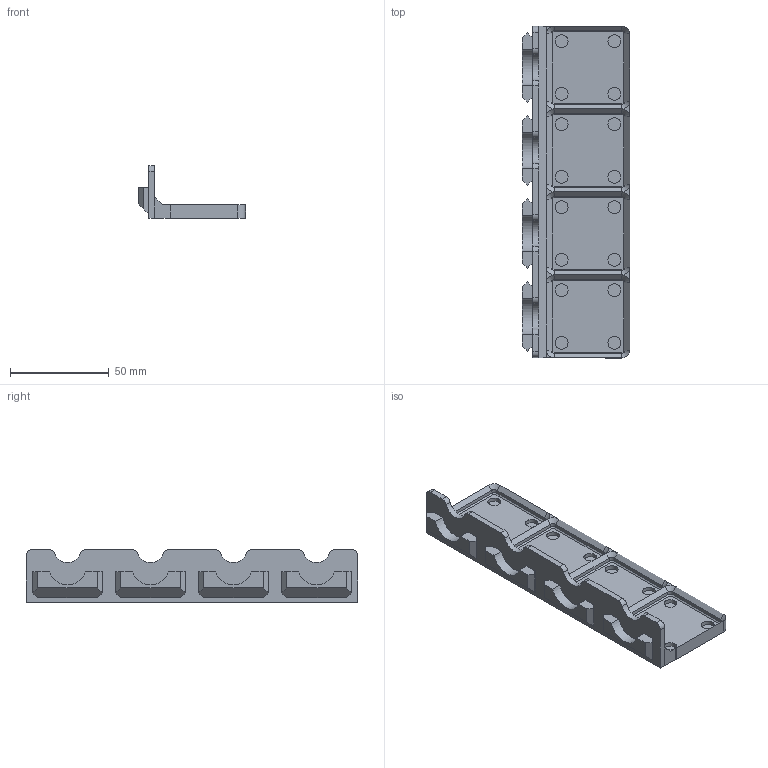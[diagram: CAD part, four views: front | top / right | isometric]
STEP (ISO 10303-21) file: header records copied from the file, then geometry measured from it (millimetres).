
FILE_DESCRIPTION(/* description */ ('','CAx-IF Rec.Pracs.---Representation and Presentation of Product Manufacturing Information (PMI)---4.0---2014-10-13'),/* implementation_level */ '2;1');
FILE_NAME(/* name */ 'Goews Quad Hanger Gridfinity with Magnets 1x4 Base v1.step',/* time_stamp */ '2024-12-07T22:42:21-05:00',/* author */ (''),/* organization */ (''),/* preprocessor_version */ 'ST-DEVELOPER v20',/* originating_system */ 'Autodesk Translation Framework v13.20.0.188',/* authorisation */ '');
FILE_SCHEMA (('AP242_MANAGED_MODEL_BASED_3D_ENGINEERING_MIM_LF { 1 0 10303 442 1 1 4 }'));
Length unit declared in the file: millimetre
Products named in the file (1): Goews Quad Hanger Gridfinity with Magnets 1x4 Base
Bounding box: 54.15 x 168 x 26.72 mm (x, y, z)
Volume: 44627.4 mm3; surface area: 29464.5 mm2
Topology: 1 solids, 1 shells, 238 faces, 528 edges, 312 vertices
Faces by surface type: plane 140, cylinder 66, cone 32
Full cylindrical faces by diameter (mm): 6.5 x16
Entity records: 6455 total; most frequent: DIRECTION 1156, CARTESIAN_POINT 1079, ORIENTED_EDGE 1056, EDGE_CURVE 528, AXIS2_PLACEMENT_3D 389, LINE 378, VECTOR 378, VERTEX_POINT 312
